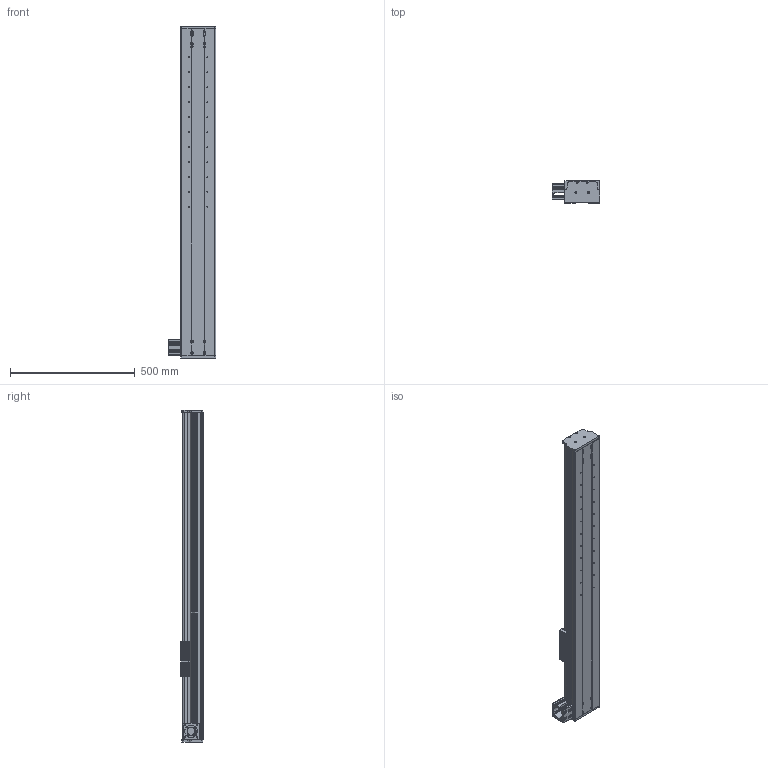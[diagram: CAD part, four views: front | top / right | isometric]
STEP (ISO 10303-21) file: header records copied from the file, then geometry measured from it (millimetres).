
FILE_DESCRIPTION (( 'STEP AP203' ), '1' );
FILE_NAME ('CF140B肮祭湍1000俴最.STEP', '2020-06-13T02:12:01', ( 'Micorosoft' ), ( 'Micorosoft' ), 'SwSTEP 2.0', 'SolidWorks 2016', '' );
FILE_SCHEMA (( 'CONFIG_CONTROL_DESIGN' ));
Length unit declared in the file: millimetre
Products named in the file (11): 6060-3232源臏奪-萇儂釱; 15賑輸; CF140B肮祭湍1000俴最; 15絳寢; CF140蹟譫釱; CF140賑雄啣; CF140裔啣; CF140萇儂啣; 6060-3232源臏奪-翋雄釱; 6060-3232源臏奪-植雄釱; 菁釱
Assembly tree (15 placements, depth 2):
  CF140B肮祭湍1000俴最
    菁釱
    15賑輸  x4
    15絳寢  x2
    CF140蹟譫釱
    CF140賑雄啣
    CF140裔啣
    CF140萇儂啣  x2
    6060-3232源臏奪-翋雄釱
    6060-3232源臏奪-植雄釱
    6060-3232源臏奪-萇儂釱
Bounding box: 189.55 x 89.5 x 1330 mm (x, y, z)
Volume: 5675241 mm3; surface area: 2035751.8 mm2
Topology: 15 solids, 15 shells, 1688 faces, 4788 edges, 3130 vertices
Faces by surface type: cylinder 860, plane 760, cone 68
Entity records: 52285 total; most frequent: CARTESIAN_POINT 9850, DIRECTION 8823, ORIENTED_EDGE 8630, EDGE_CURVE 4315, AXIS2_PLACEMENT_3D 3110, VERTEX_POINT 2864, LINE 2603, VECTOR 2603
